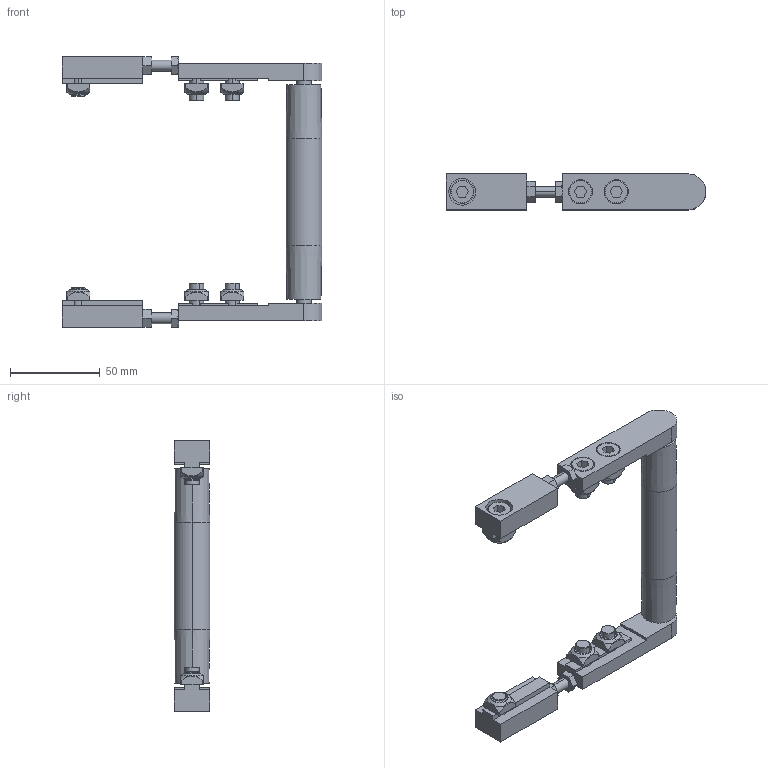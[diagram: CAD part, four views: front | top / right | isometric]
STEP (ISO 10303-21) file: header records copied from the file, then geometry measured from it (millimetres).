
FILE_DESCRIPTION (( 'STEP AP214' ), '1' );
FILE_NAME ('084.020.KI.100.STEP', '2018-02-05T13:58:11', ( '' ), ( '' ), 'SwSTEP 2.0', 'SolidWorks 2016', '' );
FILE_SCHEMA (( 'AUTOMOTIVE_DESIGN' ));
Length unit declared in the file: millimetre
Products named in the file (10): circlip for shafts normal_din_Circlip DIN 471 - 8 x 0.8; 084.800.012; 084.800.029; 084.302.000 DADI ALUSIC 13x13-1_084.302.004; 084.020.KI.100; 084.802.008; 084.800.002; 084.800.008; 084.301.000 VITI ALUSIC_084.301.002; 084.800.007
Assembly tree (27 placements, depth 2):
  084.020.KI.100
    084.802.008  x2
    084.301.000 VITI ALUSIC_084.301.002  x6
    084.302.000 DADI ALUSIC 13x13-1_084.302.004  x6
    084.800.029
    084.800.012  x4
    084.800.008  x2
    084.800.002  x2
    084.800.007  x2
    circlip for shafts normal_din_Circlip DIN 471 - 8 x 0.8  x2
Bounding box: 145 x 20 x 151 mm (x, y, z)
Volume: 82690.8 mm3; surface area: 54732.9 mm2
Topology: 31 solids, 31 shells, 664 faces, 1564 edges, 998 vertices
Faces by surface type: plane 262, cylinder 210, torus 112, cone 56, bspline 24
Entity records: 7452 total; most frequent: CARTESIAN_POINT 1561, DIRECTION 1208, ORIENTED_EDGE 1048, EDGE_CURVE 524, AXIS2_PLACEMENT_3D 474, VERTEX_POINT 337, VECTOR 260, LINE 260
